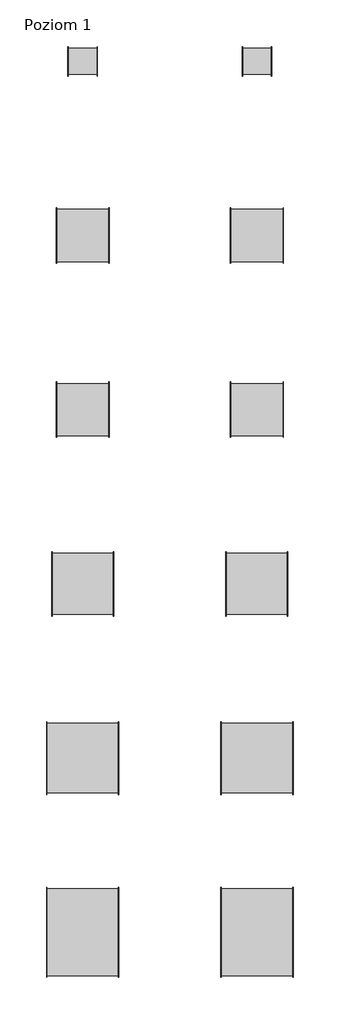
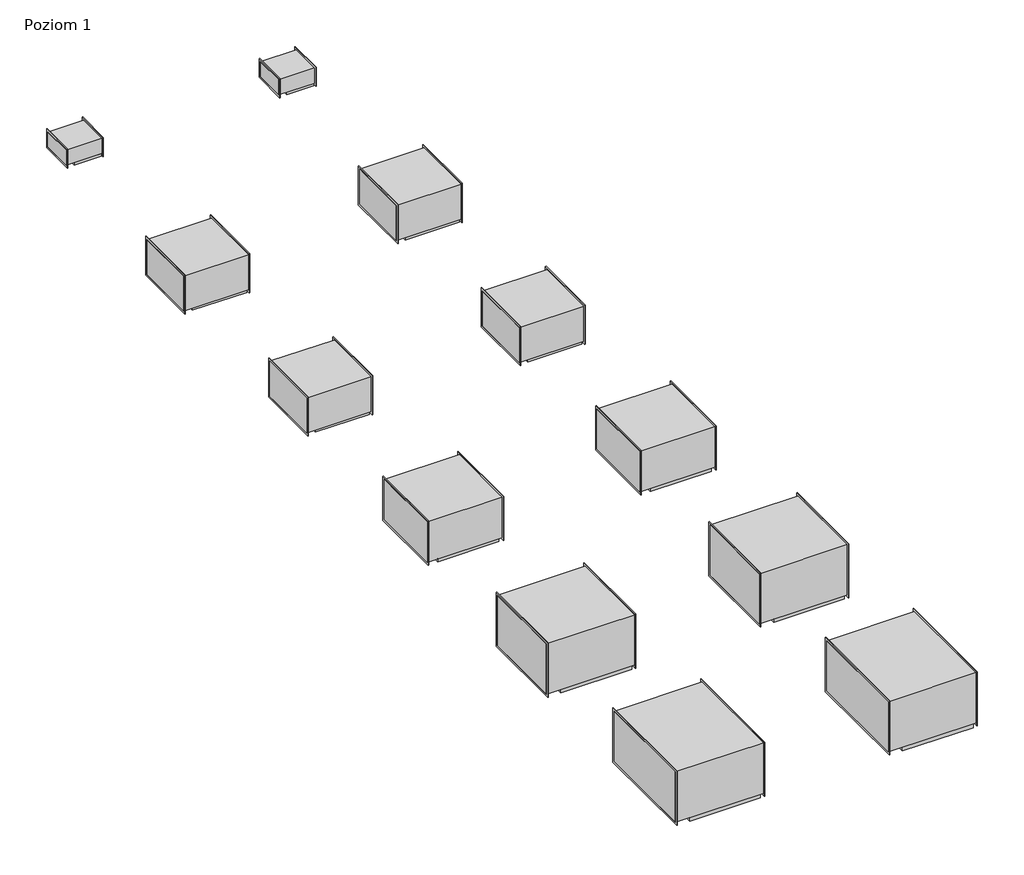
# One storey: 12 unitary equipment elements.
"""IFC4 building model written with IfcOpenShell, lengths in millimetres."""

from ifc_helpers import new_model, si_unit, origin, place, context, project, spatial, transform, mapped, element, save
from components import unitary_equipment_a265e7f2, unitary_equipment_105838a1, unitary_equipment_7a74215c, unitary_equipment_0bac79b3, unitary_equipment_2857cd75, unitary_equipment_030_15_500s_d7689226

model = new_model("IFC4")

# Units and contexts
model_context = context("Model", 3, world=origin())
ifc_project = project(units=[si_unit("LENGTHUNIT", "METRE", prefix="MILLI")], contexts=[model_context])

# Site, building, storey
site = spatial("IfcSite", under=ifc_project)
building = spatial("IfcBuilding", under=site)
storey = spatial("IfcBuildingStorey", under=building, Name="Poziom 1", Elevation=0.0)

# Unitary equipment
placement = place(None, origin())
unitary_equipment_shape = unitary_equipment_a265e7f2(model_context)
element("IfcUnitaryEquipment", 1, ObjectType="VE-Wentylator-ParaForma-Harmann-DRB-Nawiewny : 060/35/3000S", at=placement, inside=storey, context=model_context, shape_type="MappedRepresentation", body=[
    mapped(unitary_equipment_shape, transform((6582.5, 1000.0, 0.0), x_axis=(1.0, 0.0, 0.0), y_axis=(0.0, 1.0, 0.0), z_axis=(0.0, 0.0, 1.0))),
])
unitary_equipment_2_shape = unitary_equipment_105838a1(model_context)
element("IfcUnitaryEquipment", 2, ObjectType="VE-Wentylator-ParaForma-Harmann-DRB-Nawiewny : 060/35/3900S", at=placement, inside=storey, context=model_context, shape_type="MappedRepresentation", body=[
    mapped(unitary_equipment_2_shape, transform((6582.5, -1000.0, 0.0), x_axis=(1.0, 0.0, 0.0), y_axis=(0.0, 1.0, 0.0), z_axis=(0.0, 0.0, 1.0))),
])
unitary_equipment_3_shape = unitary_equipment_7a74215c(model_context)
element("IfcUnitaryEquipment", 3, ObjectType="VE-Wentylator-ParaForma-Harmann-DRB-Nawiewny : 070/40/5000T", at=placement, inside=storey, context=model_context, shape_type="MappedRepresentation", body=[
    mapped(unitary_equipment_3_shape, transform((6582.5, -3000.0, 0.0), x_axis=(1.0, 0.0, 0.0), y_axis=(0.0, 1.0, 0.0), z_axis=(0.0, 0.0, 1.0))),
])
unitary_equipment_4_shape = unitary_equipment_0bac79b3(model_context)
element("IfcUnitaryEquipment", 4, ObjectType="VE-Wentylator-ParaForma-Harmann-DRB-Nawiewny : 080/50/9100T", at=placement, inside=storey, context=model_context, shape_type="MappedRepresentation", body=[
    mapped(unitary_equipment_4_shape, transform((6582.5, -5000.0, 0.0), x_axis=(1.0, 0.0, 0.0), y_axis=(0.0, 1.0, 0.0), z_axis=(0.0, 0.0, 1.0))),
])
unitary_equipment_5_shape = unitary_equipment_2857cd75(model_context)
element("IfcUnitaryEquipment", 5, ObjectType="VE-Wentylator-ParaForma-Harmann-DRB-Nawiewny : 100/50/11400T", at=placement, inside=storey, context=model_context, shape_type="MappedRepresentation", body=[
    mapped(unitary_equipment_5_shape, transform((6582.5, -7000.0, 0.0), x_axis=(1.0, 0.0, 0.0), y_axis=(0.0, 1.0, 0.0), z_axis=(0.0, 0.0, 1.0))),
])
element("IfcUnitaryEquipment", 6, ObjectType="VE-Wentylator-ParaForma-Harmann-DRB-Wywiewny : 060/35/3000S", at=placement, inside=storey, context=model_context, shape_type="MappedRepresentation", body=[
    mapped(unitary_equipment_shape, transform((4582.5, 1000.0, 0.0), x_axis=(1.0, 0.0, 0.0), y_axis=(0.0, 1.0, 0.0), z_axis=(0.0, 0.0, 1.0))),
])
element("IfcUnitaryEquipment", 7, ObjectType="VE-Wentylator-ParaForma-Harmann-DRB-Wywiewny : 060/35/3900S", at=placement, inside=storey, context=model_context, shape_type="MappedRepresentation", body=[
    mapped(unitary_equipment_2_shape, transform((4582.5, -1000.0, 0.0), x_axis=(1.0, 0.0, 0.0), y_axis=(0.0, 1.0, 0.0), z_axis=(0.0, 0.0, 1.0))),
])
element("IfcUnitaryEquipment", 8, ObjectType="VE-Wentylator-ParaForma-Harmann-DRB-Wywiewny : 070/40/5000T", at=placement, inside=storey, context=model_context, shape_type="MappedRepresentation", body=[
    mapped(unitary_equipment_3_shape, transform((4582.5, -3000.0, 0.0), x_axis=(1.0, 0.0, 0.0), y_axis=(0.0, 1.0, 0.0), z_axis=(0.0, 0.0, 1.0))),
])
element("IfcUnitaryEquipment", 9, ObjectType="VE-Wentylator-ParaForma-Harmann-DRB-Wywiewny : 080/50/9100T", at=placement, inside=storey, context=model_context, shape_type="MappedRepresentation", body=[
    mapped(unitary_equipment_4_shape, transform((4582.5, -5000.0, 0.0), x_axis=(1.0, 0.0, 0.0), y_axis=(0.0, 1.0, 0.0), z_axis=(0.0, 0.0, 1.0))),
])
element("IfcUnitaryEquipment", 10, ObjectType="VE-Wentylator-ParaForma-Harmann-DRB-Wywiewny : 100/50/11400T", at=placement, inside=storey, context=model_context, shape_type="MappedRepresentation", body=[
    mapped(unitary_equipment_5_shape, transform((4582.5, -7000.0, 0.0), x_axis=(1.0, 0.0, 0.0), y_axis=(0.0, 1.0, 0.0), z_axis=(0.0, 0.0, 1.0))),
])
unitary_equipment_030_15_500s_shape = unitary_equipment_030_15_500s_d7689226(model_context)
element("IfcUnitaryEquipment", 11, ObjectType="VE-Wentylator-ParaForma-Harmann-DRB-Nawiewny : 030/15/500S", at=placement, inside=storey, context=model_context, shape_type="MappedRepresentation", body=[
    mapped(unitary_equipment_030_15_500s_shape, transform((6582.5, 3000.0, 0.0), x_axis=(1.0, 0.0, 0.0), y_axis=(0.0, 1.0, 0.0), z_axis=(0.0, 0.0, 1.0))),
])
element("IfcUnitaryEquipment", 12, ObjectType="VE-Wentylator-ParaForma-Harmann-DRB-Wywiewny : 030/15/500S", at=placement, inside=storey, context=model_context, shape_type="MappedRepresentation", body=[
    mapped(unitary_equipment_030_15_500s_shape, transform((4582.5, 3000.0, 0.0), x_axis=(1.0, 0.0, 0.0), y_axis=(0.0, 1.0, 0.0), z_axis=(0.0, 0.0, 1.0))),
])

save(model, "model.ifc")
